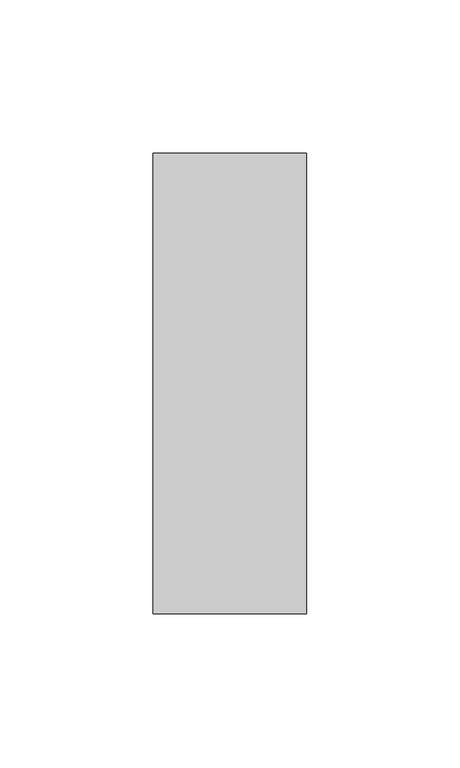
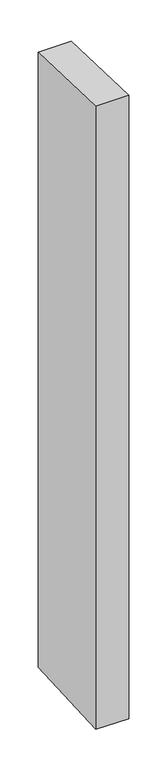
"""IFC4 building model written with IfcOpenShell, lengths in millimetres: member geometry, Прямоугольный импост : 50 x 150 мм."""

import ifcopenshell
import ifcopenshell.guid

model = None  # the IFC model being written
_history = None  # IfcOwnerHistory: only IFC2X3 demands one
_inside = {}  # id of a spatial element -> (the spatial element, [elements in it])
_under = {}  # id of a project, library or spatial element -> (it, [spatial elements below it])
_declared = {}  # id of a project -> (the project, [libraries it declares])
_typed = {}  # id of a type object -> (the type object, [elements of that type])
_made_of = {}  # id of a material, layer set ... -> (it, [elements and type objects made of it])


def new_model(schema):
    """Start an empty IFC model of exactly this schema.

    Asked for "IFC4X3", IfcOpenShell would pick the latest addendum, in which some entities
    have other attributes; the version numbers below select the first issue.
    IFC2X3 requires an IfcOwnerHistory on every rooted entity: one is made here for all.
    """
    global model, _history
    if schema == "IFC4X3":
        model = ifcopenshell.file(schema_version=(4, 3, 0, 0))
    else:
        model = ifcopenshell.file(schema=schema)
    _inside.clear()
    _under.clear()
    _declared.clear()
    _typed.clear()
    _made_of.clear()
    _history = None
    if model.schema == "IFC2X3":
        org = make("IfcOrganization", Name="unknown")
        user = make(
            "IfcPersonAndOrganization",
            ThePerson=make("IfcPerson", FamilyName="unknown"),
            TheOrganization=org,
        )
        app = make(
            "IfcApplication",
            ApplicationDeveloper=org,
            Version="unknown",
            ApplicationFullName="unknown",
            ApplicationIdentifier="unknown",
        )
        _history = make(
            "IfcOwnerHistory",
            OwningUser=user,
            OwningApplication=app,
            ChangeAction="ADDED",
            CreationDate=0,
        )
    return model


def make(cls, **values):
    """One entity of the class cls with the attributes given. An attribute that is None is left unset."""
    return model.create_entity(
        cls, **{name: value for name, value in values.items() if value is not None}
    )


def rooted(cls, **values):
    """An entity with a GlobalId (a new one), such as an element, a storey or a relation."""
    return make(cls, GlobalId=ifcopenshell.guid.new(), OwnerHistory=_history, **values)


def si_unit(unit_type, name, prefix=None):
    """IfcSIUnit, for example si_unit("LENGTHUNIT", "METRE", prefix="MILLI")."""
    return make("IfcSIUnit", UnitType=unit_type, Prefix=prefix, Name=name)


def assignment(units):
    """IfcUnitAssignment: the units of a project."""
    return None if units is None else make("IfcUnitAssignment", Units=units)


def point(xyz):
    """IfcCartesianPoint."""
    return None if xyz is None else make("IfcCartesianPoint", Coordinates=xyz)


def direction(xyz):
    """IfcDirection."""
    return None if xyz is None else make("IfcDirection", DirectionRatios=xyz)


def frame(location, z_axis=None, x_axis=None):
    """IfcAxis2Placement3D, a coordinate frame: its origin and axes. An axis left out is left unset."""
    return make(
        "IfcAxis2Placement3D",
        Location=point(location),
        Axis=direction(z_axis),
        RefDirection=direction(x_axis),
    )


def origin():
    """The frame at (0, 0, 0) with its axes left unset."""
    return frame((0.0, 0.0, 0.0))


def place(relative_to, where):
    """IfcLocalPlacement: puts the frame where relative to a parent placement (None: the world)."""
    return make(
        "IfcLocalPlacement", PlacementRelTo=relative_to, RelativePlacement=where
    )


def context(
    kind, dimensions, precision=None, world=None, true_north=None, identifier=None
):
    """IfcGeometricRepresentationContext, for example the 3D "Model" context."""
    return make(
        "IfcGeometricRepresentationContext",
        ContextIdentifier=identifier,
        ContextType=kind,
        CoordinateSpaceDimension=dimensions,
        Precision=precision,
        WorldCoordinateSystem=world,
        TrueNorth=true_north,
    )


def project(units=None, contexts=None):
    """IfcProject with its units and contexts."""
    return rooted(
        "IfcProject",
        Name="project",
        RepresentationContexts=contexts,
        UnitsInContext=assignment(units),
    )


def spatial(cls, under=None, at=None, **own):
    """A site, building, storey or space (cls), placed at a placement, below another one or the project."""
    s = rooted(cls, ObjectPlacement=at, **own)
    if under is not None:
        _under.setdefault(under.id(), (under, []))[1].append(s)
    return s


def faces_of(points, faces, orient=None, outer=None):
    """IfcFace entities. A face is a list of loops; a loop is a list of indices into points, from 0.

    orient and outer hold one flag for each loop. By default every Orientation is true, the
    first loop of a face is its IfcFaceOuterBound and the others are IfcFaceBound.
    """
    made = []
    for i, loops in enumerate(faces):
        bounds = []
        for j, loop in enumerate(loops):
            is_outer = j == 0 if outer is None else outer[i][j]
            bounds.append(
                make(
                    "IfcFaceOuterBound" if is_outer else "IfcFaceBound",
                    Bound=make("IfcPolyLoop", Polygon=[points[k] for k in loop]),
                    Orientation=True if orient is None else orient[i][j],
                )
            )
        made.append(make("IfcFace", Bounds=bounds))
    return made


def faceted_brep(points, faces, orient=None, outer=None, voids=None):
    """IfcFacetedBrep: a solid bounded by flat faces; with voids (closed shells), ...WithVoids."""
    shared = [point(p) for p in points]
    hull = make("IfcClosedShell", CfsFaces=faces_of(shared, faces, orient, outer))
    if voids is None:
        return make("IfcFacetedBrep", Outer=hull)
    return make(
        "IfcFacetedBrepWithVoids",
        Outer=hull,
        Voids=[
            make(cls, CfsFaces=faces_of(shared, fs, o, b)) for cls, fs, o, b in voids
        ],
    )


def shape(context_of_items, identifier, shape_type, items):
    """IfcShapeRepresentation: the items that make up one representation, for example the "Body"."""
    return make(
        "IfcShapeRepresentation",
        ContextOfItems=context_of_items,
        RepresentationIdentifier=identifier,
        RepresentationType=shape_type,
        Items=items,
    )


def source(mapping_origin, context_of_items, identifier, shape_type, items):
    """IfcRepresentationMap: a shape defined once, which mapped items show again and again."""
    return make(
        "IfcRepresentationMap",
        MappingOrigin=mapping_origin,
        MappedRepresentation=shape(context_of_items, identifier, shape_type, items),
    )


def transform(
    local_origin,
    x_axis=None,
    y_axis=None,
    z_axis=None,
    scale=None,
    scale2=None,
    scale3=None,
    uniform=True,
):
    """IfcCartesianTransformationOperator3D, or its non-uniform kind. x_axis, y_axis, z_axis: its Axis1, 2, 3."""
    if uniform:
        return make(
            "IfcCartesianTransformationOperator3D",
            Axis1=direction(x_axis),
            Axis2=direction(y_axis),
            LocalOrigin=point(local_origin),
            Scale=scale,
            Axis3=direction(z_axis),
        )
    return make(
        "IfcCartesianTransformationOperator3DnonUniform",
        Axis1=direction(x_axis),
        Axis2=direction(y_axis),
        LocalOrigin=point(local_origin),
        Scale=scale,
        Axis3=direction(z_axis),
        Scale2=scale2,
        Scale3=scale3,
    )


def mapped(mapping_source, mapping_target):
    """IfcMappedItem: shows the shape of a source again, moved by a transform."""
    return make(
        "IfcMappedItem", MappingSource=mapping_source, MappingTarget=mapping_target
    )


def made_of(thing, what):
    """Note that an element or type object is made of a material, layer set ...; save() writes the relation."""
    if what is not None:
        _made_of.setdefault(what.id(), (what, []))[1].append(thing)
    return thing


def element(
    cls,
    number,
    at=None,
    inside=None,
    cuts=None,
    type_object=None,
    material=None,
    context=None,
    identifier="Body",
    shape_type=None,
    held_by="IfcProductDefinitionShape",
    body=None,
    shapes=None,
    **own,
):
    """One element of the class cls, such as IfcWall. Its Tag is "e" and its number.

    at: its placement. inside: the storey or other place that contains it. cuts: it is an
    opening in that element (IfcRelVoidsElement). A single representation is given by context,
    identifier, shape_type and body (its items); several are given by shapes. held_by: the class
    of the entity that holds the representations. save() writes the other relations.
    """
    e = rooted(cls, Tag="e%d" % number, ObjectPlacement=at, **own)
    if body is not None:
        shapes = [shape(context, identifier, shape_type, body)]
    if shapes is not None:
        e.Representation = make(held_by, Representations=shapes)
    if inside is not None:
        _inside.setdefault(inside.id(), (inside, []))[1].append(e)
    if cuts is not None:
        rooted(
            "IfcRelVoidsElement", RelatingBuildingElement=cuts, RelatedOpeningElement=e
        )
    if type_object is not None:
        _typed.setdefault(type_object.id(), (type_object, []))[1].append(e)
    return made_of(e, material)


def aggregate(whole, parts):
    """IfcRelAggregates: a whole, such as a stair, and the parts it consists of."""
    return rooted("IfcRelAggregates", RelatingObject=whole, RelatedObjects=parts)


def save(model, path):
    """Write the relations noted so far, then the file.

    IfcRelAggregates (storeys below a building ...), IfcRelContainedInSpatialStructure (elements
    in a storey), IfcRelDefinesByType, IfcRelAssociatesMaterial and IfcRelDeclares: one each for
    every whole, place, type object, material and project.
    """
    for whole, parts in _under.values():
        aggregate(whole, parts)
    for where, things in _inside.values():
        rooted(
            "IfcRelContainedInSpatialStructure",
            RelatedElements=things,
            RelatingStructure=where,
        )
    for kind, things in _typed.values():
        rooted("IfcRelDefinesByType", RelatedObjects=things, RelatingType=kind)
    for what, things in _made_of.values():
        rooted("IfcRelAssociatesMaterial", RelatedObjects=things, RelatingMaterial=what)
    for by, libraries in _declared.values():
        rooted("IfcRelDeclares", RelatingContext=by, RelatedDefinitions=libraries)
    model.write(path)


def member_448ce35c(model_context):
    return source(origin(), model_context, "Body", "Brep", [
        faceted_brep([(-25.0, 75.0, -2.5218082), (25.0, 75.0, -2.0197865), (25.0, 75.0, -985.1341698), (-25.0, 75.0, -984.6425649), (-25.0, -75.0, 2.0197865), (-25.0, -75.0, -993.3590747), (25.0, -75.0, 2.5218082), (25.0, -75.0, -993.8506796)], [[[0, 1, 2, 3]], [[4, 0, 3, 5]], [[6, 4, 5, 7]], [[1, 6, 7, 2]], [[1, 0, 4, 6]], [[2, 7, 5, 3]]]),
    ])


if __name__ == "__main__":
    model = new_model("IFC4")
    model_context = context("Model", 3, world=origin())
    ifc_project = project(units=[si_unit("LENGTHUNIT", "METRE", prefix="MILLI")], contexts=[model_context])
    site = spatial("IfcSite", under=ifc_project)
    building = spatial("IfcBuilding", under=site)
    placement = place(None, origin())
    member_shape = member_448ce35c(model_context)
    element("IfcMember", 1, ObjectType="Прямоугольный импост : 50 x 150 мм", at=placement, inside=building, context=model_context, shape_type="MappedRepresentation", body=[
        mapped(member_shape, transform((0.0, 0.0, 0.0), x_axis=(1.0, 0.0, 0.0), y_axis=(0.0, 1.0, 0.0), z_axis=(0.0, 0.0, 1.0))),
    ])
    save(model, "model.ifc")
